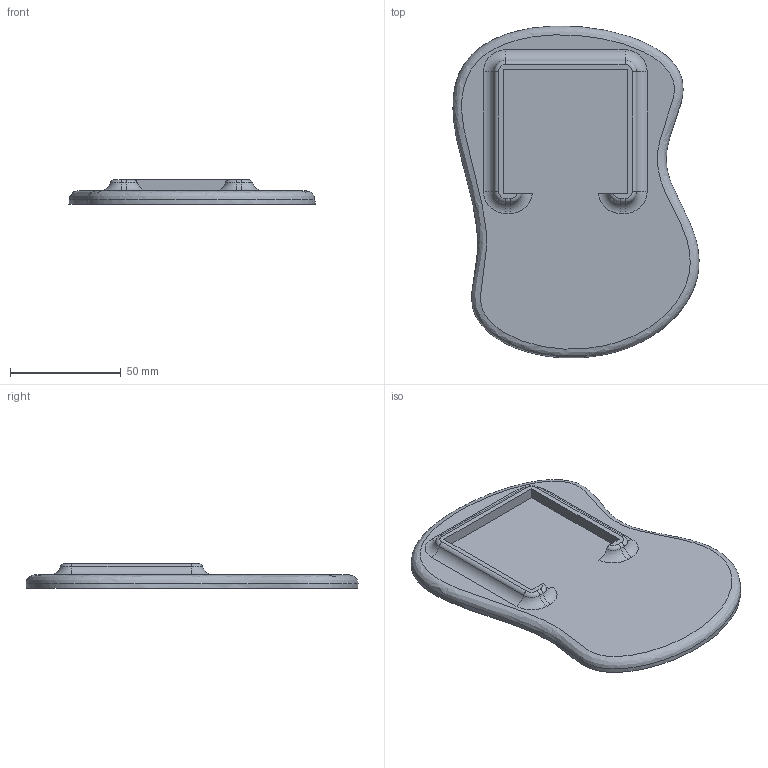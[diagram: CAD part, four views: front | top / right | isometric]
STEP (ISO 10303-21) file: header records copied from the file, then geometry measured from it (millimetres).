
FILE_DESCRIPTION(/* description */ ('','CAx-IF Rec.Pracs.---Representation and Presentation of Product Manufacturing Information (PMI)---4.0---2014-10-13'),/* implementation_level */ '2;1');
FILE_NAME(/* name */ 'Wiese.step',/* time_stamp */ '2024-12-13T22:24:31+01:00',/* author */ (''),/* organization */ (''),/* preprocessor_version */ 'ST-DEVELOPER v20',/* originating_system */ 'Autodesk Translation Framework v13.20.0.188',/* authorisation */ '');
FILE_SCHEMA (('AP203_CONFIGURATION_CONTROLLED_3D_DESIGN_OF_MECHANICAL_PARTS_AND_ASSEMBLIES_MIM_LF { 1 0 10303 203 3 1 4 }','MODEL_BASED_INTEGRATED_MANUFACTURING_SCHEMA','AP242_MANAGED_MODEL_BASED_3D_ENGINEERING_MIM_LF { 1 0 10303 442 1 1 4 }'));
Length unit declared in the file: millimetre
Products named in the file (1): 01_Wiese_01
Bounding box: 111.27 x 150.11 x 11 mm (x, y, z)
Volume: 84392.2 mm3; surface area: 30422 mm2
Topology: 1 solids, 1 shells, 32 faces, 76 edges, 47 vertices
Faces by surface type: torus 12, cylinder 10, plane 8, bspline 2
Entity records: 1597 total; most frequent: CARTESIAN_POINT 804, DIRECTION 170, ORIENTED_EDGE 152, EDGE_CURVE 76, AXIS2_PLACEMENT_3D 70, VERTEX_POINT 47, CIRCLE 39, EDGE_LOOP 33
